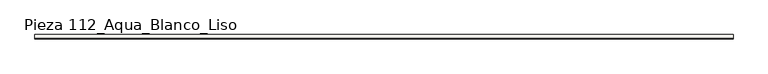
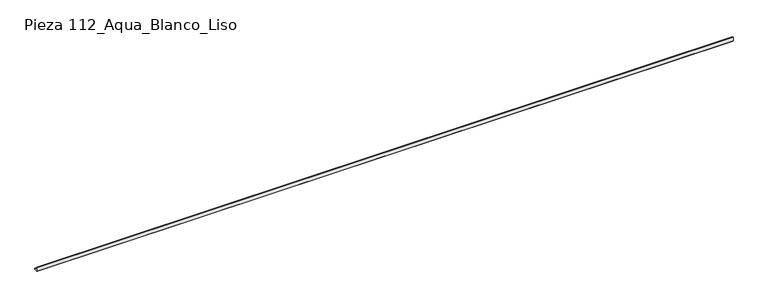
"""IFC4 building model written with IfcOpenShell, lengths in millimetres: slab geometry, ROSA GRES_112 : Pieza 112_Aqua_Blanco_Liso."""

from ifc_helpers import new_model, si_unit, point, frame, frame_2d, origin, place, context, project, spatial, polyline, circle_curve, trimmed, segment, composite_curve, outline, extrude, source, transform, mapped, element, save


def pieza_112_aqua_blanco_liso_904b2520(model_context):
    return source(origin(), model_context, "Body", "SweptSolid", [
        extrude(outline(composite_curve([segment(polyline([(-9.9734114, 8.7114978), (-9.9734114, 40.0), (0.0, 40.0)]), True, "CONTINUOUS"), segment(trimmed(circle_curve(frame_2d((30.0221432, 39.9955547)), 30.0221435), [point((0.0, 40.0))], [point((30.0265886, 9.9734114))], True, "CARTESIAN"), True, "CONTINUOUS"), segment(polyline([(30.0265886, 9.9734114), (30.0265886, 0.0), (-1.2619137, 0.0), (-9.9734114, 8.7114978)]), True, "CONTINUOUS")], self_intersect=False)), frame((0.0, 0.0, 0.0), z_axis=(1.0, 0.0, 0.0), x_axis=(0.0, 1.0, 0.0)), (0.0, 0.0, 1.0), 6265.3426788),
    ])


if __name__ == "__main__":
    model = new_model("IFC4")
    model_context = context("Model", 3, world=origin())
    ifc_project = project(units=[si_unit("LENGTHUNIT", "METRE", prefix="MILLI")], contexts=[model_context])
    site = spatial("IfcSite", under=ifc_project)
    building = spatial("IfcBuilding", under=site)
    placement = place(None, origin())
    pieza_112_aqua_blanco_liso_shape = pieza_112_aqua_blanco_liso_904b2520(model_context)
    element("IfcSlab", 1, ObjectType="ROSA GRES_112 : Pieza 112_Aqua_Blanco_Liso", at=placement, inside=building, context=model_context, shape_type="MappedRepresentation", body=[
        mapped(pieza_112_aqua_blanco_liso_shape, transform((0.0, 0.0, 0.0), x_axis=(1.0, 0.0, 0.0), y_axis=(0.0, 1.0, 0.0), z_axis=(0.0, 0.0, 1.0))),
    ])
    save(model, "model.ifc")
